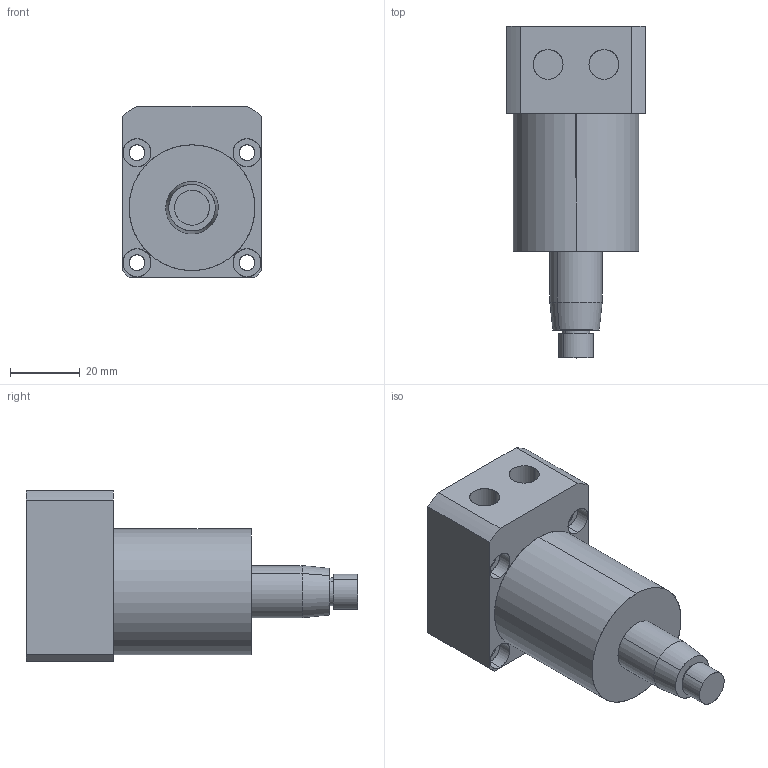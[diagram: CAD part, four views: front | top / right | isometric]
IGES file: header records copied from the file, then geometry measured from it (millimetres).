
Start section: SolidWorks IGES file using analytic representation for surfaces
Global section: file name: E:\karthik\CLASYS\Pneumatic Swing cylinders\Bottom cyl 0312\0312-0361\pneu 36.IGS; native system: SolidWorks 2010; preprocessor: SolidWorks 2010; author: karthik; date: 130914.164913; units: millimetre
Bounding box: 40 x 95 x 49 mm (x, y, z)
Surface area: 17041.5 mm2 (no closed solid volume)
Topology: 0 solids, 0 shells, 65 faces, 1304 edges, 1304 vertices
Faces by surface type: revolution 44, bspline 21
